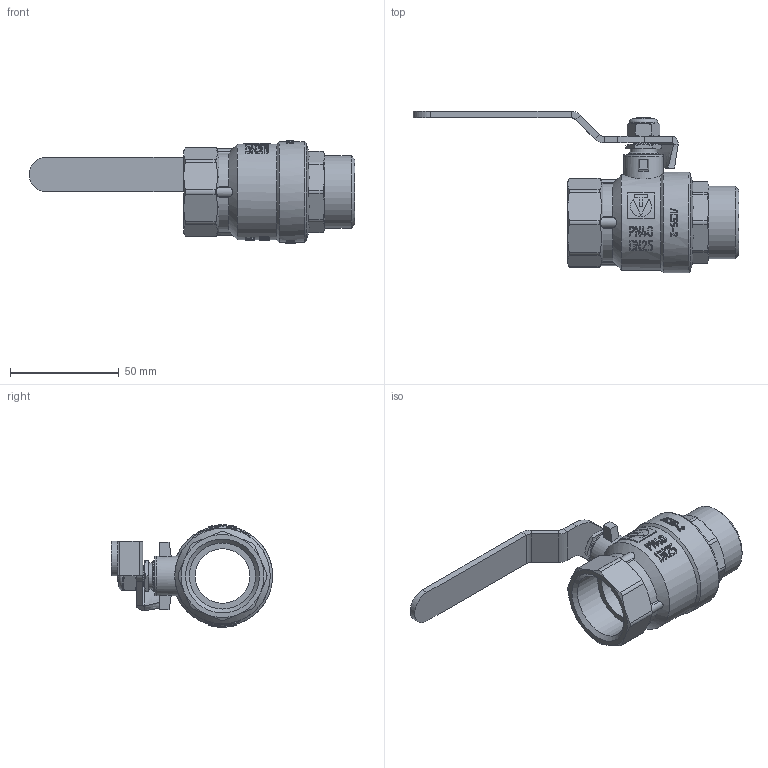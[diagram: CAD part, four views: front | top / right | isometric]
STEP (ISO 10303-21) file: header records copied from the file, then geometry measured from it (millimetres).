
FILE_DESCRIPTION(('STEP AP203'), '1');
FILE_NAME('VT.215S.N.06', '', ('UNSPECIFIED'), ('UNSPECIFIED'), 'C3D Converter', 'C3D Toolkit', '');
FILE_SCHEMA(('CONFIG_CONTROL_DESIGN'));
Length unit declared in the file: millimetre
Products named in the file (1): ВР.491816.014.000-01
Bounding box: 149.48 x 73.99 x 47 mm (x, y, z)
Volume: 68408.7 mm3; surface area: 25270 mm2
Topology: 1 solids, 1 shells, 843 faces, 2309 edges, 1512 vertices
Faces by surface type: extrusion 371, plane 319, cylinder 96, cone 50, bspline 4, torus 3
Full cylindrical faces by diameter (mm): 9.5 x1, 12.1 x1, 13 x1, 14 x1, 18.3 x1, 25 x1, 30.292 x1, 33.249 x1, 43.8 x1, 46 x1
Entity records: 44182 total; most frequent: CARTESIAN_POINT 24541, ORIENTED_EDGE 4550, DIRECTION 2987, EDGE_CURVE 2275, VERTEX_POINT 1507, VECTOR 1321, B_SPLINE_CURVE_WITH_KNOTS 1282, LINE 950
